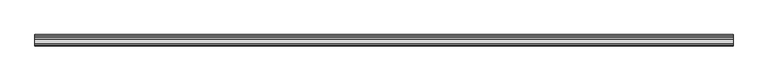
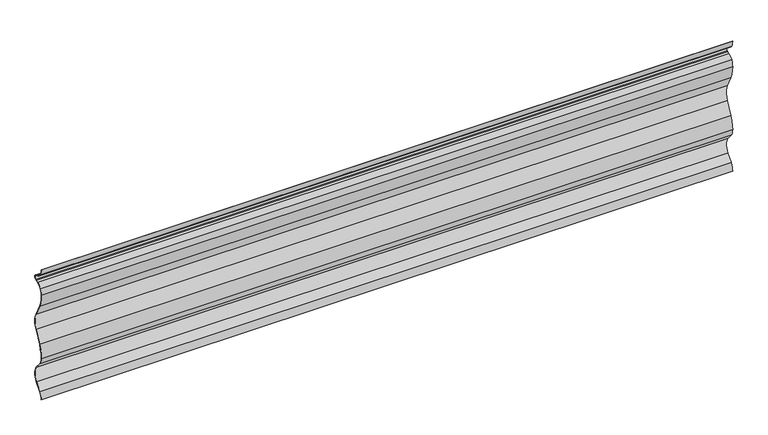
"""IFC4 building model written with IfcOpenShell, lengths in millimetres: plate geometry, Ritmica Horizontal 457 : Ritmica Horizontal 457."""

from ifc_helpers import new_model, si_unit, point, frame, frame_2d, origin, place, context, project, spatial, polyline, circle_curve, trimmed, segment, composite_curve, outline, extrude, source, transform, mapped, element, save


def plate_d5ea7675(model_context):
    return source(origin(), model_context, "Body", "SweptSolid", [
        extrude(outline(composite_curve([segment(trimmed(circle_curve(frame_2d((32.4557039, 453.5315208)), 30.6166783), [point((6.3430017, 437.5469103))], [point((21.0958469, 425.1002943))], True, "CARTESIAN"), True, "CONTINUOUS"), segment(polyline([(21.0958469, 425.1002943), (28.2912902, 422.2213272), (31.7563766, 420.5619636)]), True, "CONTINUOUS"), segment(trimmed(circle_curve(frame_2d((27.9290684, 412.5697711)), 8.8613445), [point((31.7563766, 420.5619636))], [point((31.7621935, 404.580367))], False, "CARTESIAN"), True, "CONTINUOUS"), segment(polyline([(31.7621935, 404.580367), (28.298316, 402.9184814), (21.1049705, 400.034277)]), True, "CONTINUOUS"), segment(trimmed(circle_curve(frame_2d((32.4855212, 371.6113276)), 30.6166783), [point((21.1049705, 400.034277))], [point((6.3611897, 387.5769248))], True, "CARTESIAN"), True, "CONTINUOUS"), segment(trimmed(circle_curve(frame_2d((38.316475, 368.0478045)), 37.4503244), [point((6.3611897, 387.5769248))], [point((0.8661531, 368.0341733))], True, "CARTESIAN"), True, "CONTINUOUS"), segment(trimmed(circle_curve(frame_2d((94.1023106, 364.7672254)), 93.293376), [point((0.8661531, 368.0341733))], [point((10.0476548, 324.2892209))], True, "CARTESIAN"), True, "CONTINUOUS"), segment(polyline([(10.0476548, 324.2892209), (30.4443215, 283.7581494)]), True, "CONTINUOUS"), segment(trimmed(circle_curve(frame_2d((-23.1517705, 256.7867029)), 60.0), [point((30.4443215, 283.7581494))], [point((30.4639414, 229.8542794))], False, "CARTESIAN"), True, "CONTINUOUS"), segment(polyline([(30.4639414, 229.8542794), (10.0967851, 189.3083707)]), True, "CONTINUOUS"), segment(trimmed(circle_curve(frame_2d((94.180885, 148.8915653)), 93.293376), [point((10.0967851, 189.3083707))], [point((0.9471304, 145.5567461))], True, "CARTESIAN"), True, "CONTINUOUS"), segment(trimmed(circle_curve(frame_2d((38.0785482, 145.5702612)), 37.1314203), [point((0.9471304, 145.5567461))], [point((9.5589915, 121.7925982))], True, "CARTESIAN"), True, "CONTINUOUS"), segment(polyline([(9.5589915, 121.7925982), (28.2547827, 99.3683726)]), True, "CONTINUOUS"), segment(trimmed(circle_curve(frame_2d((-7.0897704, 72.9267773)), 44.1406321), [point((28.2547827, 99.3683726))], [point((28.2740218, 46.5109184))], False, "CARTESIAN"), True, "CONTINUOUS"), segment(polyline([(28.2740218, 46.5109184), (9.5945594, 23.7707747)]), True, "CONTINUOUS"), segment(trimmed(circle_curve(frame_2d((38.1314178, 0.0138791)), 37.1314203), [point((9.5945594, 23.7707747))], [point((1.0000001, 0.0))], True, "CARTESIAN"), True, "CONTINUOUS"), segment(polyline([(1.0000001, 0.0), (0.0, 0.0)]), True, "CONTINUOUS"), segment(trimmed(circle_curve(frame_2d((38.1314178, 0.0138791)), 38.1314203), [point((0.0, 0.0))], [point((8.8260227, 24.4105804))], False, "CARTESIAN"), True, "CONTINUOUS"), segment(polyline([(8.8260227, 24.4105804), (27.488531, 47.1303588)]), True, "CONTINUOUS"), segment(trimmed(circle_curve(frame_2d((-7.0897704, 72.9267773)), 43.1406321), [point((27.488531, 47.1303588))], [point((27.4697431, 98.7483605))], True, "CARTESIAN"), True, "CONTINUOUS"), segment(polyline([(27.4697431, 98.7483605), (8.7909208, 121.1522332)]), True, "CONTINUOUS"), segment(trimmed(circle_curve(frame_2d((38.0785482, 145.5702612)), 38.1314203), [point((8.7909208, 121.1522332))], [point((-0.0528589, 145.5386154))], False, "CARTESIAN"), True, "CONTINUOUS"), segment(trimmed(circle_curve(frame_2d((94.180885, 148.8915653)), 94.293376), [point((-0.0528589, 145.5386154))], [point((9.1992862, 189.7494732))], False, "CARTESIAN"), True, "CONTINUOUS"), segment(polyline([(9.1992862, 189.7494732), (29.5703462, 230.3031531)]), True, "CONTINUOUS"), segment(trimmed(circle_curve(frame_2d((-23.1517705, 256.7867029)), 59.0), [point((29.5703462, 230.3031531))], [point((29.5510533, 283.3086253))], True, "CARTESIAN"), True, "CONTINUOUS"), segment(polyline([(29.5510533, 283.3086253), (9.1504773, 323.8474651)]), True, "CONTINUOUS"), segment(trimmed(circle_curve(frame_2d((94.1023106, 364.7672254)), 94.293376), [point((9.1504773, 323.8474651))], [point((-0.1338492, 368.0515751))], False, "CARTESIAN"), True, "CONTINUOUS"), segment(trimmed(circle_curve(frame_2d((38.316475, 368.0478045)), 38.4503244), [point((-0.1338492, 368.0515751))], [point((5.5079185, 388.0983921))], False, "CARTESIAN"), True, "CONTINUOUS"), segment(trimmed(circle_curve(frame_2d((32.4855212, 371.6113276)), 31.6166783), [point((5.5079185, 388.0983921))], [point((20.7330361, 400.9625361))], False, "CARTESIAN"), True, "CONTINUOUS"), segment(polyline([(20.7330361, 400.9625361), (27.8955168, 403.834365), (31.3296266, 405.4819688)]), True, "CONTINUOUS"), segment(trimmed(circle_curve(frame_2d((27.9290684, 412.5697711)), 7.8613445), [point((31.3296266, 405.4819688))], [point((31.324466, 419.6600471))], True, "CARTESIAN"), True, "CONTINUOUS"), segment(polyline([(31.324466, 419.6600471), (27.8891578, 421.3051505), (20.7245884, 424.1717647)]), True, "CONTINUOUS"), segment(trimmed(circle_curve(frame_2d((32.4557039, 453.5315208)), 31.6166783), [point((20.7245884, 424.1717647))], [point((5.4901103, 437.024822))], False, "CARTESIAN"), True, "CONTINUOUS"), segment(trimmed(circle_curve(frame_2d((38.2840621, 457.0992876)), 38.4503244), [point((5.4901103, 437.024822))], [point((-0.1662599, 457.0856569))], False, "CARTESIAN"), True, "CONTINUOUS"), segment(polyline([(-0.1662599, 457.0856569), (0.8337401, 457.0856569)]), True, "CONTINUOUS"), segment(trimmed(circle_curve(frame_2d((38.2840621, 457.0992876)), 37.4503244), [point((0.8337401, 457.0856569))], [point((6.3430017, 437.5469103))], True, "CARTESIAN"), True, "CONTINUOUS")], self_intersect=False)), frame((-1149.0935453, 0.0, 0.0), z_axis=(1.0, 0.0, 0.0), x_axis=(0.0, 1.0, 0.0)), (0.0, 0.0, 1.0), 2298.1870906),
    ])


if __name__ == "__main__":
    model = new_model("IFC4")
    model_context = context("Model", 3, world=origin())
    ifc_project = project(units=[si_unit("LENGTHUNIT", "METRE", prefix="MILLI")], contexts=[model_context])
    site = spatial("IfcSite", under=ifc_project)
    building = spatial("IfcBuilding", under=site)
    placement = place(None, origin())
    plate_shape = plate_d5ea7675(model_context)
    element("IfcPlate", 1, ObjectType="Ritmica Horizontal 457 : Ritmica Horizontal 457", at=placement, inside=building, context=model_context, shape_type="MappedRepresentation", body=[
        mapped(plate_shape, transform((0.0, 0.0, 0.0), x_axis=(1.0, 0.0, 0.0), y_axis=(0.0, 1.0, 0.0), z_axis=(0.0, 0.0, 1.0))),
    ])
    save(model, "model.ifc")
